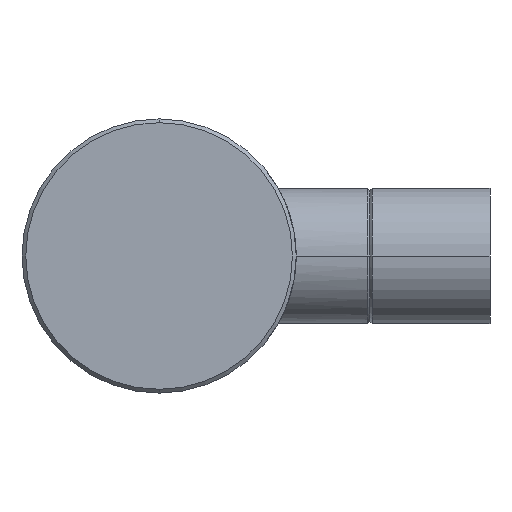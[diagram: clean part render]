
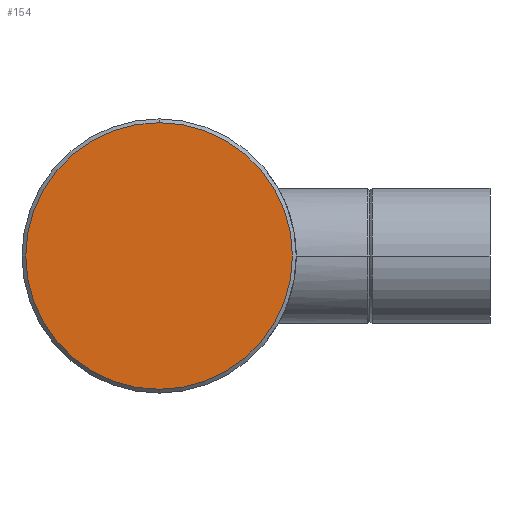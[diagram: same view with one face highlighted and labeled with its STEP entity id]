
A CAD part, left-side view. The second image highlights one B-rep face of the part: STEP entity #154.
In plain terms, the highlighted planar face has unit normal (-1, 0, 0).
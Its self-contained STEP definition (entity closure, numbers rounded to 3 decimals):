
#154 = ADVANCED_FACE ( 'NONE', ( #240 ), #289, .F. ) ;
#166 = DIRECTION ( 'NONE',  ( 1., 0., 0. ) ) ;
#188 = CARTESIAN_POINT ( 'NONE',  ( 0., 0., 17.75 ) ) ;
#240 = FACE_OUTER_BOUND ( 'NONE', #760, .T. ) ;
#271 = CARTESIAN_POINT ( 'NONE',  ( 0., 0., 0. ) ) ;
#289 = PLANE ( 'NONE',  #569 ) ;
#324 = VERTEX_POINT ( 'NONE', #1326 ) ;
#354 = CARTESIAN_POINT ( 'NONE',  ( 0., 0., 0. ) ) ;
#400 = DIRECTION ( 'NONE',  ( 0., 0., 1. ) ) ;
#428 = EDGE_CURVE ( 'NONE', #324, #1144, #678, .T. ) ;
#469 = DIRECTION ( 'NONE',  ( 0., 0., 1. ) ) ;
#518 = AXIS2_PLACEMENT_3D ( 'NONE', #271, #1103, #400 ) ;
#569 = AXIS2_PLACEMENT_3D ( 'NONE', #1346, #166, #1000 ) ;
#627 = AXIS2_PLACEMENT_3D ( 'NONE', #354, #1173, #469 ) ;
#633 = EDGE_CURVE ( 'NONE', #1144, #324, #1248, .T. ) ;
#678 = CIRCLE ( 'NONE', #627, 17.75 ) ;
#760 = EDGE_LOOP ( 'NONE', ( #996, #1118 ) ) ;
#996 = ORIENTED_EDGE ( 'NONE', *, *, #428, .T. ) ;
#1000 = DIRECTION ( 'NONE',  ( 0., 0., -1. ) ) ;
#1103 = DIRECTION ( 'NONE',  ( -1., 0., 0. ) ) ;
#1118 = ORIENTED_EDGE ( 'NONE', *, *, #633, .T. ) ;
#1144 = VERTEX_POINT ( 'NONE', #188 ) ;
#1173 = DIRECTION ( 'NONE',  ( -1., 0., 0. ) ) ;
#1248 = CIRCLE ( 'NONE', #518, 17.75 ) ;
#1326 = CARTESIAN_POINT ( 'NONE',  ( 0., 0., -17.75 ) ) ;
#1346 = CARTESIAN_POINT ( 'NONE',  ( 0., 0., 0. ) ) ;
